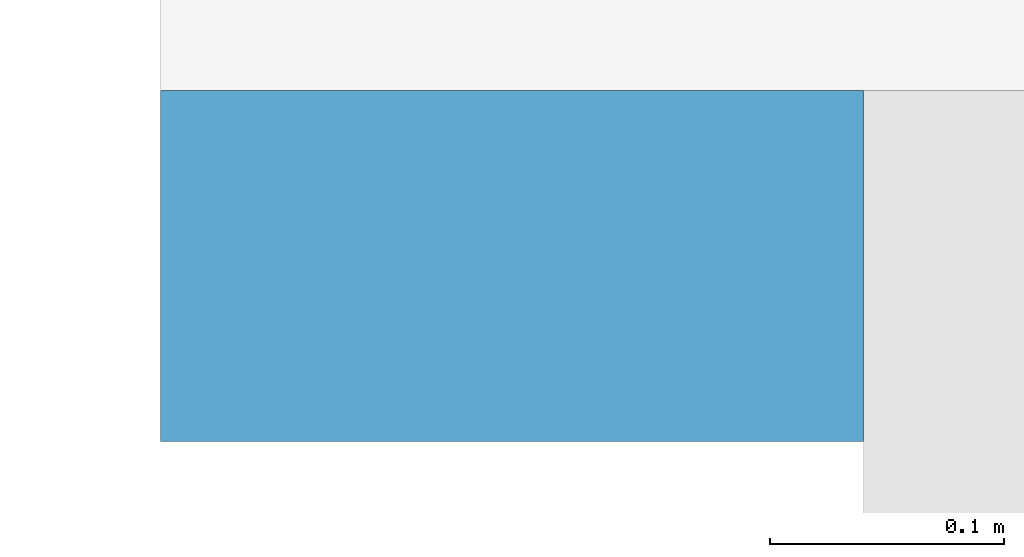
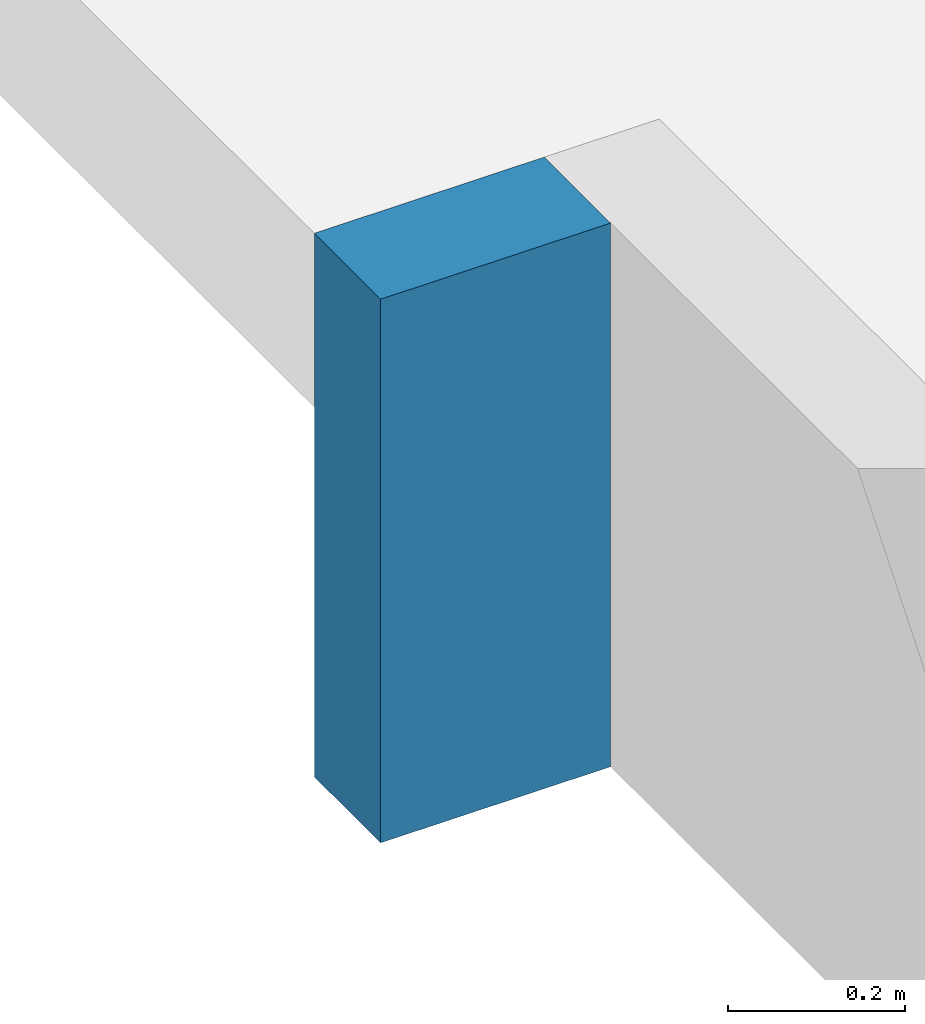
# One storey, part 4 of 14: 1 wall.
"""IFC2X3 building model written with IfcOpenShell, lengths in millimetres."""

from ifc_helpers import new_model, entity, si_unit, converted_unit, derived_unit, direction, frame, frame_2d, origin, place, context, subcontext, project, spatial, rectangle, extrude, material, layer, layer_set, layer_usage, type_object, element, save


model = new_model("IFC2X3")

# Units and contexts
model_context = context("Model", 3, precision=0.01, world=origin(), true_north=direction((6.12303176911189e-17, 1.0)))
body_context = subcontext(model_context, "Body", "Model", "MODEL_VIEW")
ifc_project = project(units=[si_unit("LENGTHUNIT", "METRE", prefix="MILLI"), si_unit("AREAUNIT", "SQUARE_METRE"), si_unit("VOLUMEUNIT", "CUBIC_METRE"), converted_unit("PLANEANGLEUNIT", "DEGREE", entity("IfcRatioMeasure", 0.0174532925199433), si_unit("PLANEANGLEUNIT", "RADIAN"), dimensions=[0, 0, 0, 0, 0, 0, 0]), si_unit("MASSUNIT", "GRAM", prefix="KILO"), derived_unit("MASSDENSITYUNIT", [(si_unit("MASSUNIT", "GRAM", prefix="KILO"), 1), (si_unit("LENGTHUNIT", "METRE"), -3)]), si_unit("TIMEUNIT", "SECOND"), si_unit("FREQUENCYUNIT", "HERTZ"), si_unit("THERMODYNAMICTEMPERATUREUNIT", "DEGREE_CELSIUS"), derived_unit("THERMALTRANSMITTANCEUNIT", [(si_unit("MASSUNIT", "GRAM", prefix="KILO"), 1), (si_unit("THERMODYNAMICTEMPERATUREUNIT", "KELVIN"), -1), (si_unit("TIMEUNIT", "SECOND"), -3)]), derived_unit("VOLUMETRICFLOWRATEUNIT", [(si_unit("LENGTHUNIT", "METRE"), 3), (si_unit("TIMEUNIT", "SECOND"), -1)]), si_unit("ELECTRICCURRENTUNIT", "AMPERE"), si_unit("ELECTRICVOLTAGEUNIT", "VOLT"), si_unit("POWERUNIT", "WATT"), si_unit("FORCEUNIT", "NEWTON", prefix="KILO"), si_unit("ILLUMINANCEUNIT", "LUX"), si_unit("LUMINOUSFLUXUNIT", "LUMEN"), si_unit("LUMINOUSINTENSITYUNIT", "CANDELA"), derived_unit("USERDEFINED", [(si_unit("MASSUNIT", "GRAM", prefix="KILO"), -1), (si_unit("LENGTHUNIT", "METRE"), -2), (si_unit("TIMEUNIT", "SECOND"), 3), (si_unit("LUMINOUSFLUXUNIT", "LUMEN"), 1)]), derived_unit("LINEARVELOCITYUNIT", [(si_unit("LENGTHUNIT", "METRE"), 1), (si_unit("TIMEUNIT", "SECOND"), -1)]), si_unit("PRESSUREUNIT", "PASCAL"), derived_unit("USERDEFINED", [(si_unit("LENGTHUNIT", "METRE"), -2), (si_unit("MASSUNIT", "GRAM", prefix="KILO"), 1), (si_unit("TIMEUNIT", "SECOND"), -2)])], contexts=[model_context])

# Site, building, storey
site_placement = place(None, origin())
site = spatial("IfcSite", under=ifc_project, at=site_placement, Name="表面", CompositionType="ELEMENT")
building_placement = place(site_placement, origin())
building = spatial("IfcBuilding", under=site, at=building_placement, CompositionType="ELEMENT")
storey_placement = place(building_placement, origin())
storey = spatial("IfcBuildingStorey", under=building, at=storey_placement, Name="±0.000", CompositionType="ELEMENT", Elevation=0.0)

# Wall
ifc_material = material(Name="C_砼- 水泥焦渣")
ifc_layer = layer(ifc_material, 150.0)
ifc_layer_set = layer_set([ifc_layer], Name="基本墙:沟壁150")
ifc_layer_usage = layer_usage(ifc_layer_set, "AXIS2", "NEGATIVE", 75.0)
wall_type = type_object("IfcWallType", Name="基本墙:沟壁150", PredefinedType="STANDARD", material=ifc_layer_set)
wall_placement = place(storey_placement, frame((-47228.7991690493, 4614.69534535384, -750.0), z_axis=(0.0, 0.0, 1.0), x_axis=(-1.0, 0.0, 0.0)))
element("IfcWallStandardCase", 1, at=wall_placement, inside=storey, type_object=wall_type, material=ifc_layer_usage, Name="基本墙:沟壁150", ObjectType="基本墙:沟壁150", context=body_context, shape_type="SweptSolid", body=[
    extrude(rectangle(XDim=299.999612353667, YDim=150.000000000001, at=frame_2d((149.999806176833, -4.9737991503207e-14), x_axis=(-1.0, 0.0))), origin(), (0.0, 0.0, 1.0), 750.0),
])

save(model, "model.ifc")
